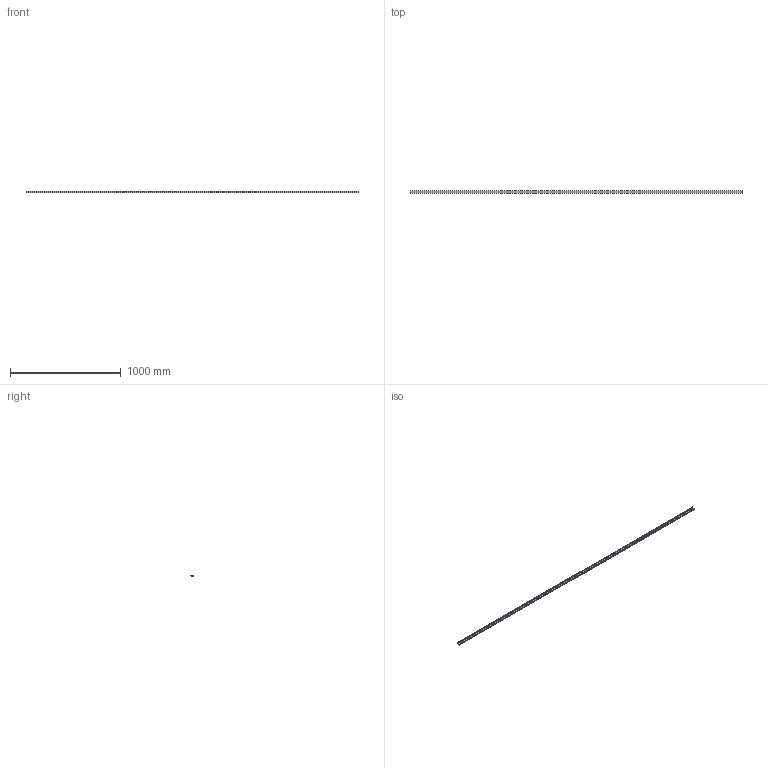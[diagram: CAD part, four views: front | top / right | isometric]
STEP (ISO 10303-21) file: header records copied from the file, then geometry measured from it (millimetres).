
FILE_DESCRIPTION (( 'STEP AP214' ), '1' );
FILE_NAME ('FABER - FGRR 3x20x10F.step', '2017-04-06T07:45:59', ( '' ), ( '' ), 'SwSTEP 2.0', 'SolidWorks 2016', '' );
FILE_SCHEMA (( 'AUTOMOTIVE_DESIGN' ));
Length unit declared in the file: millimetre
Products named in the file (1): FABER - FGRR 3x20x10F
Bounding box: 3000 x 26.01 x 14.9 mm (x, y, z)
Volume: 384598.1 mm3; surface area: 356663 mm2
Topology: 1 solids, 1 shells, 34 faces, 96 edges, 64 vertices
Faces by surface type: cylinder 18, plane 16
Entity records: 1154 total; most frequent: DIRECTION 202, CARTESIAN_POINT 195, ORIENTED_EDGE 192, EDGE_CURVE 96, AXIS2_PLACEMENT_3D 71, VERTEX_POINT 64, LINE 60, VECTOR 60
